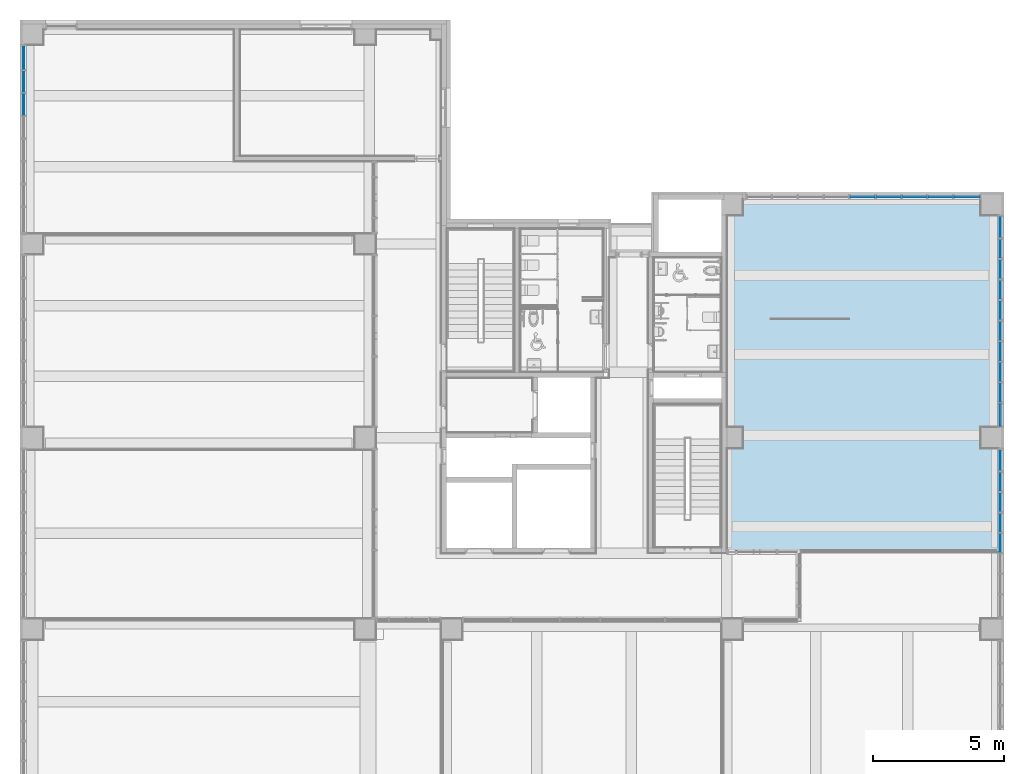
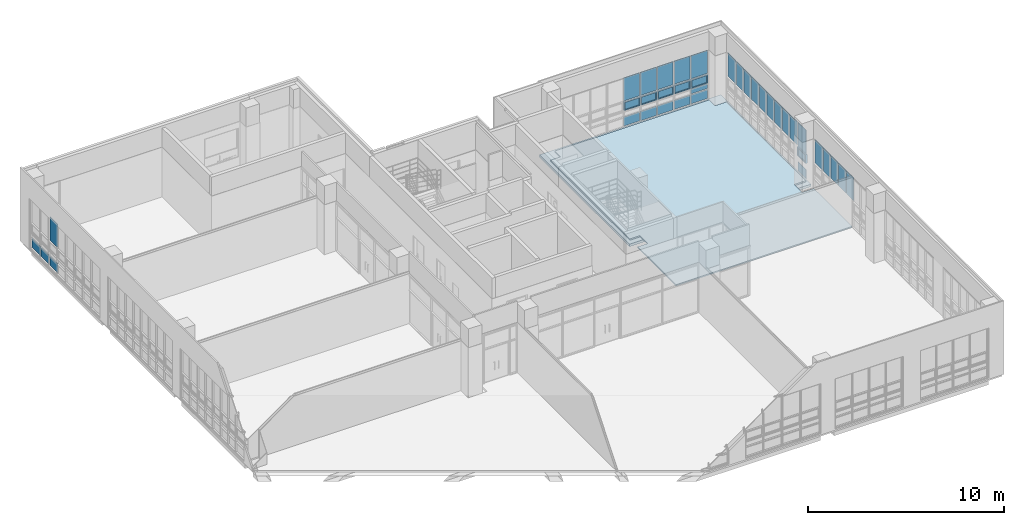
# One storey, part 37 of 74: 37 plates, 2 slabs, 4 elements without a shape of their own.
"""IFC2X3 building model written with IfcOpenShell, lengths in millimetres."""

from ifc_helpers import new_model, entity, si_unit, converted_unit, derived_unit, direction, frame, frame_2d, origin, origin_2d_with_axis, place, context, subcontext, project, spatial, polyline, rectangle, outline, extrude, source, transform, mapped, material, material_list, layer, layer_set, layer_usage, type_object, type_shapes, element, aggregate, save


model = new_model("IFC2X3")

# Units and contexts
model_context = context("Model", 3, precision=0.01, world=origin(), true_north=direction((6.123031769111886e-17, 1.0)))
body_context = subcontext(model_context, "Body", "Model", "MODEL_VIEW")
ifc_project = project(units=[si_unit("LENGTHUNIT", "METRE", prefix="MILLI"), si_unit("AREAUNIT", "SQUARE_METRE"), si_unit("VOLUMEUNIT", "CUBIC_METRE"), converted_unit("PLANEANGLEUNIT", "DEGREE", entity("IfcRatioMeasure", 0.017453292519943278), si_unit("PLANEANGLEUNIT", "RADIAN"), dimensions=[0, 0, 0, 0, 0, 0, 0]), si_unit("MASSUNIT", "GRAM", prefix="KILO"), derived_unit("MASSDENSITYUNIT", [(si_unit("MASSUNIT", "GRAM", prefix="KILO"), 1), (si_unit("LENGTHUNIT", "METRE"), -3)]), derived_unit("MOMENTOFINERTIAUNIT", [(si_unit("LENGTHUNIT", "METRE"), 4)]), si_unit("TIMEUNIT", "SECOND"), si_unit("FREQUENCYUNIT", "HERTZ"), si_unit("THERMODYNAMICTEMPERATUREUNIT", "DEGREE_CELSIUS"), derived_unit("THERMALTRANSMITTANCEUNIT", [(si_unit("MASSUNIT", "GRAM", prefix="KILO"), 1), (si_unit("THERMODYNAMICTEMPERATUREUNIT", "KELVIN"), -1), (si_unit("TIMEUNIT", "SECOND"), -3)]), derived_unit("VOLUMETRICFLOWRATEUNIT", [(si_unit("LENGTHUNIT", "METRE"), 3), (si_unit("TIMEUNIT", "SECOND"), -1)]), derived_unit("MASSFLOWRATEUNIT", [(si_unit("MASSUNIT", "GRAM", prefix="KILO"), 1), (si_unit("TIMEUNIT", "SECOND"), -1)]), derived_unit("ROTATIONALFREQUENCYUNIT", [(si_unit("TIMEUNIT", "SECOND"), -1)]), si_unit("ELECTRICCURRENTUNIT", "AMPERE"), si_unit("ELECTRICVOLTAGEUNIT", "VOLT"), si_unit("POWERUNIT", "WATT"), si_unit("FORCEUNIT", "NEWTON", prefix="KILO"), si_unit("ILLUMINANCEUNIT", "LUX"), si_unit("LUMINOUSFLUXUNIT", "LUMEN"), si_unit("LUMINOUSINTENSITYUNIT", "CANDELA"), derived_unit("USERDEFINED", [(si_unit("MASSUNIT", "GRAM", prefix="KILO"), -1), (si_unit("LENGTHUNIT", "METRE"), -2), (si_unit("TIMEUNIT", "SECOND"), 3), (si_unit("LUMINOUSFLUXUNIT", "LUMEN"), 1)]), derived_unit("SOUNDPOWERUNIT", [(si_unit("MASSUNIT", "GRAM", prefix="KILO"), 1), (si_unit("LENGTHUNIT", "METRE"), 2), (si_unit("TIMEUNIT", "SECOND"), -3)]), derived_unit("SOUNDPRESSUREUNIT", [(si_unit("MASSUNIT", "GRAM", prefix="KILO"), 1), (si_unit("LENGTHUNIT", "METRE"), -1), (si_unit("TIMEUNIT", "SECOND"), -2)]), derived_unit("LINEARVELOCITYUNIT", [(si_unit("LENGTHUNIT", "METRE"), 1), (si_unit("TIMEUNIT", "SECOND"), -1)]), si_unit("PRESSUREUNIT", "PASCAL"), derived_unit("USERDEFINED", [(si_unit("LENGTHUNIT", "METRE"), -2), (si_unit("MASSUNIT", "GRAM", prefix="KILO"), 1), (si_unit("TIMEUNIT", "SECOND"), -2)]), derived_unit("LINEARFORCEUNIT", [(si_unit("MASSUNIT", "GRAM", prefix="KILO"), 1), (si_unit("LENGTHUNIT", "METRE"), 1), (si_unit("TIMEUNIT", "SECOND"), -2), (si_unit("LENGTHUNIT", "METRE"), -1)]), derived_unit("PLANARFORCEUNIT", [(si_unit("MASSUNIT", "GRAM", prefix="KILO"), 1), (si_unit("LENGTHUNIT", "METRE"), 1), (si_unit("TIMEUNIT", "SECOND"), -2), (si_unit("LENGTHUNIT", "METRE"), -2)])], contexts=[model_context])

# Site, building, storey
site_placement = place(None, frame((-14167.972527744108, -657.2125860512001, 0.0)))
site = spatial("IfcSite", under=ifc_project, at=site_placement, Name="Default", CompositionType="ELEMENT")
building_placement = place(site_placement, origin())
building = spatial("IfcBuilding", under=site, at=building_placement, Name="Sample Building", CompositionType="ELEMENT")
storey_placement = place(building_placement, frame((0.0, 0.0, 4800.0)))
storey = spatial("IfcBuildingStorey", under=building, at=storey_placement, Name="지상 2층", CompositionType="ELEMENT", Elevation=4800.000000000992)

# Slab
ifc_material_1 = material(Name="KBIMS-콘크리트")
ifc_layer_1 = layer(ifc_material_1, 150.0)
ifc_layer_set_1 = layer_set([ifc_layer_1], Name="바닥:SL111-철근콘크리트구조 바닥 150mm_S1")
ifc_layer_usage_1 = layer_usage(ifc_layer_set_1, "AXIS3", "POSITIVE", 0.0)
slab_type_1 = type_object("IfcSlabType", Name="바닥:SL111-철근콘크리트구조 바닥 150mm_S1", PredefinedType="FLOOR", material=ifc_layer_set_1)
slab_1_placement = place(storey_placement, origin())
element("IfcSlab", 1, at=slab_1_placement, inside=storey, type_object=slab_type_1, material=ifc_layer_usage_1, Name="바닥:SL111-철근콘크리트구조 바닥 150mm_S1", ObjectType="바닥:SL111-철근콘크리트구조 바닥 150mm_S1", PredefinedType="FLOOR", context=body_context, shape_type="SweptSolid", body=[
    extrude(rectangle(XDim=9200.000037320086, YDim=10699.999920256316, at=frame_2d((4.547473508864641e-12, -8.640199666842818e-12), x_axis=(1.0, 0.0))), frame((46117.95506529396, 24657.21227648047, 0.0), z_axis=(0.0, 0.0, -1.0), x_axis=(0.0, 1.0, 0.0)), (0.0, 0.0, 1.0), 150.0),
])

# Curtain wall, plates
curtain_wall_type = type_object("IfcCurtainWallType", Name="커튼월:CW112-스테인리스 스틸 커튼월", PredefinedType="NOTDEFINED")
curtain_wall_1_placement = place(storey_placement, frame((0.0, 0.0, -4800.0)))
curtain_wall_1 = element("IfcCurtainWall", 2, at=curtain_wall_1_placement, inside=storey, type_object=curtain_wall_type, Name="커튼월:CW112-스테인리스 스틸 커튼월", ObjectType="커튼월:CW112-스테인리스 스틸 커튼월")
ifc_material_2 = material(Name="KBIMS-로이유리(코팅)")
plate_type_1 = type_object("IfcPlateType", Name="CW300-THK24.Low-e coating glass:CW300-THK24.Low-e coating glass", PredefinedType="CURTAIN_PANEL", material=ifc_material_2)
shared_shape_1 = source(origin(), body_context, "Body", "SweptSolid", [
    extrude(rectangle(XDim=24.000000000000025, YDim=903.7499999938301, at=origin_2d_with_axis()), frame((0.0, 0.0, 0.0), z_axis=(0.0, 0.0, 1.0), x_axis=(0.0, 1.0, 0.0)), (0.0, 0.0, 1.0), 575.0000000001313),
])
type_shapes(plate_type_1, [shared_shape_1])
plate_1_placement = place(curtain_wall_1_placement, frame((14130.455105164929, 34465.33727524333, 4930.0), z_axis=(0.0, 0.0, 1.0), x_axis=(0.0, -1.0, 0.0)))
plate_1 = element("IfcPlate", 3, at=plate_1_placement, type_object=plate_type_1, material=ifc_material_2, Name="CW300-THK24.Low-e coating glass:CW300-THK24.Low-e coating glass", ObjectType="CW300-THK24.Low-e coating glass:CW300-THK24.Low-e coating glass", context=body_context, shape_type="MappedRepresentation", body=[
    mapped(shared_shape_1, transform((0.0, 0.0, 0.0), scale=1.0)),
])
plate_type_2 = type_object("IfcPlateType", Name="CW300-THK24.Low-e coating glass:CW300-THK24.Low-e coating glass", PredefinedType="CURTAIN_PANEL", material=ifc_material_2)
shared_shape_2 = source(origin(), body_context, "Body", "SweptSolid", [
    extrude(rectangle(XDim=24.000000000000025, YDim=818.7500000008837, at=origin_2d_with_axis()), frame((0.0, 0.0, 0.0), z_axis=(0.0, 0.0, 1.0), x_axis=(0.0, 1.0, 0.0)), (0.0, 0.0, 1.0), 575.0000000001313),
])
type_shapes(plate_type_2, [shared_shape_2])
plate_2_placement = place(curtain_wall_1_placement, frame((14130.455105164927, 33554.08727524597, 4930.0), z_axis=(0.0, 0.0, 1.0), x_axis=(0.0, -1.0, 0.0)))
plate_2 = element("IfcPlate", 4, at=plate_2_placement, type_object=plate_type_2, material=ifc_material_2, Name="CW300-THK24.Low-e coating glass:CW300-THK24.Low-e coating glass", ObjectType="CW300-THK24.Low-e coating glass:CW300-THK24.Low-e coating glass", context=body_context, shape_type="MappedRepresentation", body=[
    mapped(shared_shape_2, transform((0.0, 0.0, 0.0), scale=1.0)),
])
plate_3_placement = place(curtain_wall_1_placement, frame((14130.455105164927, 32685.33727524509, 4930.0), z_axis=(0.0, 0.0, 1.0), x_axis=(0.0, -1.0, 0.0)))
plate_3 = element("IfcPlate", 5, at=plate_3_placement, type_object=plate_type_2, material=ifc_material_2, Name="CW300-THK24.Low-e coating glass:CW300-THK24.Low-e coating glass", ObjectType="CW300-THK24.Low-e coating glass:CW300-THK24.Low-e coating glass", context=body_context, shape_type="MappedRepresentation", body=[
    mapped(shared_shape_2, transform((0.0, 0.0, 0.0), scale=1.0)),
])
plate_type_3 = type_object("IfcPlateType", Name="CW300-THK24.Low-e coating glass:CW300-THK24.Low-e coating glass", PredefinedType="CURTAIN_PANEL", material=ifc_material_2)
shared_shape_3 = source(origin(), body_context, "Body", "SweptSolid", [
    extrude(rectangle(XDim=24.000000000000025, YDim=818.7500000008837, at=origin_2d_with_axis()), frame((0.0, 0.0, 0.0), z_axis=(0.0, 0.0, 1.0), x_axis=(0.0, 1.0, 0.0)), (0.0, 0.0, 1.0), 1445.0000000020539),
])
type_shapes(plate_type_3, [shared_shape_3])
plate_4_placement = place(curtain_wall_1_placement, frame((14130.455105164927, 32685.33727524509, 6505.0), z_axis=(0.0, 0.0, 1.0), x_axis=(0.0, -1.0, 0.0)))
plate_4 = element("IfcPlate", 6, at=plate_4_placement, type_object=plate_type_3, material=ifc_material_2, Name="CW300-THK24.Low-e coating glass:CW300-THK24.Low-e coating glass", ObjectType="CW300-THK24.Low-e coating glass:CW300-THK24.Low-e coating glass", context=body_context, shape_type="MappedRepresentation", body=[
    mapped(shared_shape_3, transform((0.0, 0.0, 0.0), scale=1.0)),
])
aggregate(curtain_wall_1, [plate_1, plate_2, plate_3, plate_4])

curtain_wall_2_placement = place(storey_placement, frame((0.0, 0.0, -4800.0)))
curtain_wall_2 = element("IfcCurtainWall", 7, at=curtain_wall_2_placement, inside=storey, type_object=curtain_wall_type, Name="커튼월:CW112-스테인리스 스틸 커튼월", ObjectType="커튼월:CW112-스테인리스 스틸 커튼월")
plate_type_4 = type_object("IfcPlateType", Name="CW300-THK24.Low-e coating glass:CW300-THK24.Low-e coating glass", PredefinedType="CURTAIN_PANEL", material=ifc_material_2)
shared_shape_4 = source(origin(), body_context, "Body", "SweptSolid", [
    extrude(rectangle(XDim=806.2500327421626, YDim=24.000000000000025, at=origin_2d_with_axis()), frame((0.0, 0.0, 0.0), z_axis=(0.0, 0.0, 1.0), x_axis=(-1.0, 0.0, 0.0)), (0.0, 0.0, 1.0), 1445.0000000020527),
])
type_shapes(plate_type_4, [shared_shape_4])
plate_5_placement = place(curtain_wall_2_placement, frame((51405.463828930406, 19104.08729161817, 6505.0), z_axis=(0.0, 0.0, 1.0), x_axis=(0.0, 1.0, 0.0)))
plate_5 = element("IfcPlate", 8, at=plate_5_placement, type_object=plate_type_4, material=ifc_material_2, Name="CW300-THK24.Low-e coating glass:CW300-THK24.Low-e coating glass", ObjectType="CW300-THK24.Low-e coating glass:CW300-THK24.Low-e coating glass", context=body_context, shape_type="MappedRepresentation", body=[
    mapped(shared_shape_4, transform((0.0, 0.0, 0.0), scale=1.0)),
])
plate_type_5 = type_object("IfcPlateType", Name="CW300-THK24.Low-e coating glass:CW300-THK24.Low-e coating glass", PredefinedType="CURTAIN_PANEL", material=ifc_material_2)
shared_shape_5 = source(origin(), body_context, "Body", "SweptSolid", [
    extrude(rectangle(XDim=731.2499999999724, YDim=24.000000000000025, at=origin_2d_with_axis()), frame((0.0, 0.0, 0.0), z_axis=(0.0, 0.0, 1.0), x_axis=(-1.0, 0.0, 0.0)), (0.0, 0.0, 1.0), 1445.0000000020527),
])
type_shapes(plate_type_5, [shared_shape_5])
plate_6_placement = place(curtain_wall_2_placement, frame((51405.4638289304, 15941.587275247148, 6505.0), z_axis=(0.0, 0.0, 1.0), x_axis=(0.0, 1.0, 0.0)))
plate_6 = element("IfcPlate", 9, at=plate_6_placement, type_object=plate_type_5, material=ifc_material_2, Name="CW300-THK24.Low-e coating glass:CW300-THK24.Low-e coating glass", ObjectType="CW300-THK24.Low-e coating glass:CW300-THK24.Low-e coating glass", context=body_context, shape_type="MappedRepresentation", body=[
    mapped(shared_shape_5, transform((0.0, 0.0, 0.0), scale=1.0)),
])
plate_7_placement = place(curtain_wall_2_placement, frame((51405.4638289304, 16722.837275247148, 6505.0), z_axis=(0.0, 0.0, 1.0), x_axis=(0.0, 1.0, 0.0)))
plate_7 = element("IfcPlate", 10, at=plate_7_placement, type_object=plate_type_5, material=ifc_material_2, Name="CW300-THK24.Low-e coating glass:CW300-THK24.Low-e coating glass", ObjectType="CW300-THK24.Low-e coating glass:CW300-THK24.Low-e coating glass", context=body_context, shape_type="MappedRepresentation", body=[
    mapped(shared_shape_5, transform((0.0, 0.0, 0.0), scale=1.0)),
])
plate_8_placement = place(curtain_wall_2_placement, frame((51405.4638289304, 17504.087275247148, 6505.0), z_axis=(0.0, 0.0, 1.0), x_axis=(0.0, 1.0, 0.0)))
plate_8 = element("IfcPlate", 11, at=plate_8_placement, type_object=plate_type_5, material=ifc_material_2, Name="CW300-THK24.Low-e coating glass:CW300-THK24.Low-e coating glass", ObjectType="CW300-THK24.Low-e coating glass:CW300-THK24.Low-e coating glass", context=body_context, shape_type="MappedRepresentation", body=[
    mapped(shared_shape_5, transform((0.0, 0.0, 0.0), scale=1.0)),
])
plate_9_placement = place(curtain_wall_2_placement, frame((51405.463828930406, 18285.337275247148, 6505.0), z_axis=(0.0, 0.0, 1.0), x_axis=(0.0, 1.0, 0.0)))
plate_9 = element("IfcPlate", 12, at=plate_9_placement, type_object=plate_type_5, material=ifc_material_2, Name="CW300-THK24.Low-e coating glass:CW300-THK24.Low-e coating glass", ObjectType="CW300-THK24.Low-e coating glass:CW300-THK24.Low-e coating glass", context=body_context, shape_type="MappedRepresentation", body=[
    mapped(shared_shape_5, transform((0.0, 0.0, 0.0), scale=1.0)),
])
aggregate(curtain_wall_2, [plate_6, plate_7, plate_8, plate_9, plate_5])

curtain_wall_3_placement = place(storey_placement, frame((0.0, 0.0, -4800.0)))
curtain_wall_3 = element("IfcCurtainWall", 13, at=curtain_wall_3_placement, inside=storey, type_object=curtain_wall_type, Name="커튼월:CW112-스테인리스 스틸 커튼월", ObjectType="커튼월:CW112-스테인리스 스틸 커튼월")
plate_type_6 = type_object("IfcPlateType", Name="CW300-THK24.Low-e coating glass:CW300-THK24.Low-e coating glass", PredefinedType="CURTAIN_PANEL", material=ifc_material_2)
shared_shape_6 = source(origin(), body_context, "Body", "SweptSolid", [
    extrude(rectangle(XDim=859.9999672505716, YDim=24.000000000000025, at=origin_2d_with_axis()), frame((0.0, 0.0, 0.0), z_axis=(0.0, 0.0, 1.0), x_axis=(-1.0, 0.0, 0.0)), (0.0, 0.0, 1.0), 575.0000000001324),
])
type_shapes(plate_type_6, [shared_shape_6])
plate_10_placement = place(curtain_wall_3_placement, frame((51405.463828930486, 20837.212291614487, 4930.0), z_axis=(0.0, 0.0, 1.0), x_axis=(0.0, 1.0, 0.0)))
plate_10 = element("IfcPlate", 14, at=plate_10_placement, type_object=plate_type_6, material=ifc_material_2, Name="CW300-THK24.Low-e coating glass:CW300-THK24.Low-e coating glass", ObjectType="CW300-THK24.Low-e coating glass:CW300-THK24.Low-e coating glass", context=body_context, shape_type="MappedRepresentation", body=[
    mapped(shared_shape_6, transform((0.0, 0.0, 0.0), scale=1.0)),
])
ifc_material_3 = material(Name="KBIMS-유리")
ifc_material_4 = material(Name="KBIMS-알루미늄")
ifc_material_list_1 = material_list([ifc_material_3, ifc_material_4])
ifc_material_list_2 = material_list([ifc_material_3, ifc_material_4])
plate_type_7 = type_object("IfcPlateType", Name="CW410-프로젝트 창:CW410-프로젝트 창 (하부개폐)", PredefinedType="CURTAIN_PANEL", material=ifc_material_list_2)
shared_shape_7 = source(origin(), body_context, "Body", "SweptSolid", [
    extrude(rectangle(XDim=759.9999672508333, YDim=23.999999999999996, at=origin_2d_with_axis()), frame((0.0, -0.04999999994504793, 50.0), z_axis=(0.0, 0.0, 1.0), x_axis=(-1.0, 0.0, 0.0)), (0.0, 0.0, 1.0), 450.00000000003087),
    extrude(outline(polyline([(-429.999983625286, -275.0), (429.999983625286, -275.0), (429.999983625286, 275.0), (-429.999983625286, 275.0), (-429.999983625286, -275.0)]), holes=[polyline([(-379.99998362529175, -225.0), (-379.9999836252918, 225.0), (379.99998362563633, 225.0), (379.99998362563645, -225.0), (-379.99998362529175, -225.0)])]), frame((0.0, -50.04999999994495, 275.0), z_axis=(0.0, 1.0, 0.0), x_axis=(1.0, 0.0, 0.0)), (0.0, 0.0, 1.0), 99.99999999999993),
])
type_shapes(plate_type_7, [shared_shape_7])
plate_11_placement = place(curtain_wall_3_placement, frame((51405.463828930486, 20837.212291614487, 5905.0), z_axis=(0.0, 0.0, 1.0), x_axis=(0.0, 1.0, 0.0)))
plate_11 = element("IfcPlate", 15, at=plate_11_placement, type_object=plate_type_7, material=ifc_material_list_1, Name="CW410-프로젝트 창:CW410-프로젝트 창 (하부개폐)", ObjectType="CW410-프로젝트 창:CW410-프로젝트 창 (하부개폐)", context=body_context, shape_type="MappedRepresentation", body=[
    mapped(shared_shape_7, transform((0.0, 0.0, 0.0), scale=1.0)),
])
plate_type_8 = type_object("IfcPlateType", Name="CW300-THK24.Low-e coating glass:CW300-THK24.Low-e coating glass", PredefinedType="CURTAIN_PANEL", material=ifc_material_2)
shared_shape_8 = source(origin(), body_context, "Body", "SweptSolid", [
    extrude(rectangle(XDim=859.9999672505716, YDim=24.000000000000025, at=origin_2d_with_axis()), frame((0.0, 0.0, 0.0), z_axis=(0.0, 0.0, 1.0), x_axis=(-1.0, 0.0, 0.0)), (0.0, 0.0, 1.0), 1445.0000000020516),
])
type_shapes(plate_type_8, [shared_shape_8])
plate_12_placement = place(curtain_wall_3_placement, frame((51405.463828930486, 20837.212291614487, 6505.0), z_axis=(0.0, 0.0, 1.0), x_axis=(0.0, 1.0, 0.0)))
plate_12 = element("IfcPlate", 16, at=plate_12_placement, type_object=plate_type_8, material=ifc_material_2, Name="CW300-THK24.Low-e coating glass:CW300-THK24.Low-e coating glass", ObjectType="CW300-THK24.Low-e coating glass:CW300-THK24.Low-e coating glass", context=body_context, shape_type="MappedRepresentation", body=[
    mapped(shared_shape_8, transform((0.0, 0.0, 0.0), scale=1.0)),
])
plate_type_9 = type_object("IfcPlateType", Name="CW300-THK24.Low-e coating glass:CW300-THK24.Low-e coating glass", PredefinedType="CURTAIN_PANEL", material=ifc_material_2)
shared_shape_9 = source(origin(), body_context, "Body", "SweptSolid", [
    extrude(rectangle(XDim=735.0000000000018, YDim=24.000000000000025, at=origin_2d_with_axis()), frame((0.0, 0.0, 0.0), z_axis=(0.0, 0.0, 1.0), x_axis=(-1.0, 0.0, 0.0)), (0.0, 0.0, 1.0), 1445.0000000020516),
])
type_shapes(plate_type_9, [shared_shape_9])
plate_13_placement = place(curtain_wall_3_placement, frame((51405.463828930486, 21684.712275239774, 6505.0), z_axis=(0.0, 0.0, 1.0), x_axis=(0.0, 1.0, 0.0)))
plate_13 = element("IfcPlate", 17, at=plate_13_placement, type_object=plate_type_9, material=ifc_material_2, Name="CW300-THK24.Low-e coating glass:CW300-THK24.Low-e coating glass", ObjectType="CW300-THK24.Low-e coating glass:CW300-THK24.Low-e coating glass", context=body_context, shape_type="MappedRepresentation", body=[
    mapped(shared_shape_9, transform((0.0, 0.0, 0.0), scale=1.0)),
])
plate_14_placement = place(curtain_wall_3_placement, frame((51405.463828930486, 22469.712275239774, 6505.0), z_axis=(0.0, 0.0, 1.0), x_axis=(0.0, 1.0, 0.0)))
plate_14 = element("IfcPlate", 18, at=plate_14_placement, type_object=plate_type_9, material=ifc_material_2, Name="CW300-THK24.Low-e coating glass:CW300-THK24.Low-e coating glass", ObjectType="CW300-THK24.Low-e coating glass:CW300-THK24.Low-e coating glass", context=body_context, shape_type="MappedRepresentation", body=[
    mapped(shared_shape_9, transform((0.0, 0.0, 0.0), scale=1.0)),
])
plate_15_placement = place(curtain_wall_3_placement, frame((51405.463828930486, 23254.712275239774, 6505.0), z_axis=(0.0, 0.0, 1.0), x_axis=(0.0, 1.0, 0.0)))
plate_15 = element("IfcPlate", 19, at=plate_15_placement, type_object=plate_type_9, material=ifc_material_2, Name="CW300-THK24.Low-e coating glass:CW300-THK24.Low-e coating glass", ObjectType="CW300-THK24.Low-e coating glass:CW300-THK24.Low-e coating glass", context=body_context, shape_type="MappedRepresentation", body=[
    mapped(shared_shape_9, transform((0.0, 0.0, 0.0), scale=1.0)),
])
plate_16_placement = place(curtain_wall_3_placement, frame((51405.463828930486, 24039.712275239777, 6505.0), z_axis=(0.0, 0.0, 1.0), x_axis=(0.0, 1.0, 0.0)))
plate_16 = element("IfcPlate", 20, at=plate_16_placement, type_object=plate_type_9, material=ifc_material_2, Name="CW300-THK24.Low-e coating glass:CW300-THK24.Low-e coating glass", ObjectType="CW300-THK24.Low-e coating glass:CW300-THK24.Low-e coating glass", context=body_context, shape_type="MappedRepresentation", body=[
    mapped(shared_shape_9, transform((0.0, 0.0, 0.0), scale=1.0)),
])
plate_17_placement = place(curtain_wall_3_placement, frame((51405.46382893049, 24824.71227523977, 6505.0), z_axis=(0.0, 0.0, 1.0), x_axis=(0.0, 1.0, 0.0)))
plate_17 = element("IfcPlate", 21, at=plate_17_placement, type_object=plate_type_9, material=ifc_material_2, Name="CW300-THK24.Low-e coating glass:CW300-THK24.Low-e coating glass", ObjectType="CW300-THK24.Low-e coating glass:CW300-THK24.Low-e coating glass", context=body_context, shape_type="MappedRepresentation", body=[
    mapped(shared_shape_9, transform((0.0, 0.0, 0.0), scale=1.0)),
])
plate_18_placement = place(curtain_wall_3_placement, frame((51405.46382893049, 25609.712275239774, 6505.0), z_axis=(0.0, 0.0, 1.0), x_axis=(0.0, 1.0, 0.0)))
plate_18 = element("IfcPlate", 22, at=plate_18_placement, type_object=plate_type_9, material=ifc_material_2, Name="CW300-THK24.Low-e coating glass:CW300-THK24.Low-e coating glass", ObjectType="CW300-THK24.Low-e coating glass:CW300-THK24.Low-e coating glass", context=body_context, shape_type="MappedRepresentation", body=[
    mapped(shared_shape_9, transform((0.0, 0.0, 0.0), scale=1.0)),
])
plate_19_placement = place(curtain_wall_3_placement, frame((51405.46382893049, 26394.71227523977, 6505.0), z_axis=(0.0, 0.0, 1.0), x_axis=(0.0, 1.0, 0.0)))
plate_19 = element("IfcPlate", 23, at=plate_19_placement, type_object=plate_type_9, material=ifc_material_2, Name="CW300-THK24.Low-e coating glass:CW300-THK24.Low-e coating glass", ObjectType="CW300-THK24.Low-e coating glass:CW300-THK24.Low-e coating glass", context=body_context, shape_type="MappedRepresentation", body=[
    mapped(shared_shape_9, transform((0.0, 0.0, 0.0), scale=1.0)),
])
plate_20_placement = place(curtain_wall_3_placement, frame((51405.46382893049, 27179.712275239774, 6505.0), z_axis=(0.0, 0.0, 1.0), x_axis=(0.0, 1.0, 0.0)))
plate_20 = element("IfcPlate", 24, at=plate_20_placement, type_object=plate_type_9, material=ifc_material_2, Name="CW300-THK24.Low-e coating glass:CW300-THK24.Low-e coating glass", ObjectType="CW300-THK24.Low-e coating glass:CW300-THK24.Low-e coating glass", context=body_context, shape_type="MappedRepresentation", body=[
    mapped(shared_shape_9, transform((0.0, 0.0, 0.0), scale=1.0)),
])
plate_type_10 = type_object("IfcPlateType", Name="CW300-THK24.Low-e coating glass:CW300-THK24.Low-e coating glass", PredefinedType="CURTAIN_PANEL", material=ifc_material_2)
shared_shape_10 = source(origin(), body_context, "Body", "SweptSolid", [
    extrude(rectangle(XDim=810.0004297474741, YDim=24.000000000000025, at=origin_2d_with_axis()), frame((0.0, 0.0, 0.0), z_axis=(0.0, 0.0, 1.0), x_axis=(-1.0, 0.0, 0.0)), (0.0, 0.0, 1.0), 1445.0000000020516),
])
type_shapes(plate_type_10, [shared_shape_10])
plate_21_placement = place(curtain_wall_3_placement, frame((51405.46382893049, 28002.212490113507, 6505.0), z_axis=(0.0, 0.0, 1.0), x_axis=(0.0, 1.0, 0.0)))
plate_21 = element("IfcPlate", 25, at=plate_21_placement, type_object=plate_type_10, material=ifc_material_2, Name="CW300-THK24.Low-e coating glass:CW300-THK24.Low-e coating glass", ObjectType="CW300-THK24.Low-e coating glass:CW300-THK24.Low-e coating glass", context=body_context, shape_type="MappedRepresentation", body=[
    mapped(shared_shape_10, transform((0.0, 0.0, 0.0), scale=1.0)),
])
aggregate(curtain_wall_3, [plate_10, plate_11, plate_12, plate_13, plate_14, plate_15, plate_16, plate_17, plate_18, plate_19, plate_20, plate_21])

curtain_wall_4_placement = place(storey_placement, frame((0.0, 0.0, -4800.0)))
curtain_wall_4 = element("IfcCurtainWall", 26, at=curtain_wall_4_placement, inside=storey, type_object=curtain_wall_type, Name="커튼월:CW112-스테인리스 스틸 커튼월", ObjectType="커튼월:CW112-스테인리스 스틸 커튼월")
plate_type_11 = type_object("IfcPlateType", Name="CW300-THK24.Low-e coating glass:CW300-THK24.Low-e coating glass", PredefinedType="CURTAIN_PANEL", material=ifc_material_2)
shared_shape_11 = source(origin(), body_context, "Body", "SweptSolid", [
    extrude(rectangle(XDim=984.3234452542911, YDim=24.000000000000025, at=origin_2d_with_axis()), frame((0.0, 0.0, 0.0), z_axis=(0.0, 0.0, 1.0), x_axis=(-1.0, 0.0, 0.0)), (0.0, 0.0, 1.0), 575.0000000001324),
])
type_shapes(plate_type_11, [shared_shape_11])
plate_22_placement = place(curtain_wall_4_placement, frame((50125.819492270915, 29157.212295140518, 4930.0), z_axis=(0.0, 0.0, 1.0), x_axis=(-1.0, 0.0, 0.0)))
plate_22 = element("IfcPlate", 27, at=plate_22_placement, type_object=plate_type_11, material=ifc_material_2, Name="CW300-THK24.Low-e coating glass:CW300-THK24.Low-e coating glass", ObjectType="CW300-THK24.Low-e coating glass:CW300-THK24.Low-e coating glass", context=body_context, shape_type="MappedRepresentation", body=[
    mapped(shared_shape_11, transform((0.0, 0.0, 0.0), scale=1.0)),
])
plate_type_12 = type_object("IfcPlateType", Name="CW300-THK24.Low-e coating glass:CW300-THK24.Low-e coating glass", PredefinedType="CURTAIN_PANEL", material=ifc_material_2)
shared_shape_12 = source(origin(), body_context, "Body", "SweptSolid", [
    extrude(rectangle(XDim=938.8888888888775, YDim=24.000000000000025, at=origin_2d_with_axis()), frame((0.0, 0.0, 0.0), z_axis=(0.0, 0.0, 1.0), x_axis=(-1.0, 0.0, 0.0)), (0.0, 0.0, 1.0), 575.0000000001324),
])
type_shapes(plate_type_12, [shared_shape_12])
plate_23_placement = place(curtain_wall_4_placement, frame((49114.21332519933, 29157.212295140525, 4930.0), z_axis=(0.0, 0.0, 1.0), x_axis=(-1.0, 0.0, 0.0)))
plate_23 = element("IfcPlate", 28, at=plate_23_placement, type_object=plate_type_12, material=ifc_material_2, Name="CW300-THK24.Low-e coating glass:CW300-THK24.Low-e coating glass", ObjectType="CW300-THK24.Low-e coating glass:CW300-THK24.Low-e coating glass", context=body_context, shape_type="MappedRepresentation", body=[
    mapped(shared_shape_12, transform((0.0, 0.0, 0.0), scale=1.0)),
])
plate_24_placement = place(curtain_wall_4_placement, frame((48125.324436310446, 29157.21229514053, 4930.0), z_axis=(0.0, 0.0, 1.0), x_axis=(-1.0, 0.0, 0.0)))
plate_24 = element("IfcPlate", 29, at=plate_24_placement, type_object=plate_type_12, material=ifc_material_2, Name="CW300-THK24.Low-e coating glass:CW300-THK24.Low-e coating glass", ObjectType="CW300-THK24.Low-e coating glass:CW300-THK24.Low-e coating glass", context=body_context, shape_type="MappedRepresentation", body=[
    mapped(shared_shape_12, transform((0.0, 0.0, 0.0), scale=1.0)),
])
plate_25_placement = place(curtain_wall_4_placement, frame((47136.43554742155, 29157.21229514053, 4930.0), z_axis=(0.0, 0.0, 1.0), x_axis=(-1.0, 0.0, 0.0)))
plate_25 = element("IfcPlate", 30, at=plate_25_placement, type_object=plate_type_12, material=ifc_material_2, Name="CW300-THK24.Low-e coating glass:CW300-THK24.Low-e coating glass", ObjectType="CW300-THK24.Low-e coating glass:CW300-THK24.Low-e coating glass", context=body_context, shape_type="MappedRepresentation", body=[
    mapped(shared_shape_12, transform((0.0, 0.0, 0.0), scale=1.0)),
])
plate_26_placement = place(curtain_wall_4_placement, frame((46147.54665853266, 29157.212295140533, 4930.0), z_axis=(0.0, 0.0, 1.0), x_axis=(-1.0, 0.0, 0.0)))
plate_26 = element("IfcPlate", 31, at=plate_26_placement, type_object=plate_type_12, material=ifc_material_2, Name="CW300-THK24.Low-e coating glass:CW300-THK24.Low-e coating glass", ObjectType="CW300-THK24.Low-e coating glass:CW300-THK24.Low-e coating glass", context=body_context, shape_type="MappedRepresentation", body=[
    mapped(shared_shape_12, transform((0.0, 0.0, 0.0), scale=1.0)),
])
plate_type_13 = type_object("IfcPlateType", Name="CW300-THK24.Low-e coating glass:CW300-THK24.Low-e coating glass", PredefinedType="CURTAIN_PANEL", material=ifc_material_2)
shared_shape_13 = source(origin(), body_context, "Body", "SweptSolid", [
    extrude(rectangle(XDim=984.3234452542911, YDim=24.000000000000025, at=origin_2d_with_axis()), frame((0.0, 0.0, 0.0), z_axis=(0.0, 0.0, 1.0), x_axis=(-1.0, 0.0, 0.0)), (0.0, 0.0, 1.0), 300.0),
])
type_shapes(plate_type_13, [shared_shape_13])
plate_27_placement = place(curtain_wall_4_placement, frame((50125.819492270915, 29157.212295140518, 5555.0), z_axis=(0.0, 0.0, 1.0), x_axis=(-1.0, 0.0, 0.0)))
plate_27 = element("IfcPlate", 32, at=plate_27_placement, type_object=plate_type_13, material=ifc_material_2, Name="CW300-THK24.Low-e coating glass:CW300-THK24.Low-e coating glass", ObjectType="CW300-THK24.Low-e coating glass:CW300-THK24.Low-e coating glass", context=body_context, shape_type="MappedRepresentation", body=[
    mapped(shared_shape_13, transform((0.0, 0.0, 0.0), scale=1.0)),
])
ifc_material_list_3 = material_list([ifc_material_3, ifc_material_4])
ifc_material_list_4 = material_list([ifc_material_3, ifc_material_4])
plate_type_14 = type_object("IfcPlateType", Name="CW410-프로젝트 창:CW410-프로젝트 창 (하부개폐)", PredefinedType="CURTAIN_PANEL", material=ifc_material_list_4)
shared_shape_14 = source(origin(), body_context, "Body", "SweptSolid", [
    extrude(rectangle(XDim=884.3234452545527, YDim=23.999999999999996, at=origin_2d_with_axis()), frame((0.0, -0.04999999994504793, 50.0), z_axis=(0.0, 0.0, 1.0), x_axis=(-1.0, 0.0, 0.0)), (0.0, 0.0, 1.0), 450.00000000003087),
    extrude(outline(polyline([(-492.1617226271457, -275.0), (492.1617226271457, -275.0), (492.1617226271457, 275.0), (-492.1617226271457, 275.0), (-492.1617226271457, -275.0)]), holes=[polyline([(-442.16172262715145, -225.0), (-442.1617226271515, 225.0), (442.16172262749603, 225.0), (442.16172262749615, -225.0), (-442.16172262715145, -225.0)])]), frame((0.0, -50.04999999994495, 275.0), z_axis=(0.0, 1.0, 0.0), x_axis=(1.0, 0.0, 0.0)), (0.0, 0.0, 1.0), 99.99999999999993),
])
type_shapes(plate_type_14, [shared_shape_14])
plate_28_placement = place(curtain_wall_4_placement, frame((50125.819492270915, 29157.212295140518, 5905.0), z_axis=(0.0, 0.0, 1.0), x_axis=(-1.0, 0.0, 0.0)))
plate_28 = element("IfcPlate", 33, at=plate_28_placement, type_object=plate_type_14, material=ifc_material_list_3, Name="CW410-프로젝트 창:CW410-프로젝트 창 (하부개폐)", ObjectType="CW410-프로젝트 창:CW410-프로젝트 창 (하부개폐)", context=body_context, shape_type="MappedRepresentation", body=[
    mapped(shared_shape_14, transform((0.0, 0.0, 0.0), scale=1.0)),
])
ifc_material_list_5 = material_list([ifc_material_3, ifc_material_4])
ifc_material_list_6 = material_list([ifc_material_3, ifc_material_4])
plate_type_15 = type_object("IfcPlateType", Name="CW410-프로젝트 창:CW410-프로젝트 창 (하부개폐)", PredefinedType="CURTAIN_PANEL", material=ifc_material_list_6)
shared_shape_15 = source(origin(), body_context, "Body", "SweptSolid", [
    extrude(rectangle(XDim=838.8888888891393, YDim=23.999999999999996, at=origin_2d_with_axis()), frame((0.0, -0.04999999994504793, 50.0), z_axis=(0.0, 0.0, 1.0), x_axis=(-1.0, 0.0, 0.0)), (0.0, 0.0, 1.0), 450.00000000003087),
    extrude(outline(polyline([(-469.444444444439, -275.0), (469.444444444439, -275.0), (469.444444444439, 275.0), (-469.444444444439, 275.0), (-469.444444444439, -275.0)]), holes=[polyline([(-419.44444444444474, -225.0), (-419.4444444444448, 225.0), (419.44444444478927, 225.0), (419.44444444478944, -225.0), (-419.44444444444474, -225.0)])]), frame((0.0, -50.04999999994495, 275.0), z_axis=(0.0, 1.0, 0.0), x_axis=(1.0, 0.0, 0.0)), (0.0, 0.0, 1.0), 99.99999999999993),
])
type_shapes(plate_type_15, [shared_shape_15])
plate_29_placement = place(curtain_wall_4_placement, frame((49114.21332519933, 29157.212295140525, 5905.0), z_axis=(0.0, 0.0, 1.0), x_axis=(-1.0, 0.0, 0.0)))
plate_29 = element("IfcPlate", 34, at=plate_29_placement, type_object=plate_type_15, material=ifc_material_list_5, Name="CW410-프로젝트 창:CW410-프로젝트 창 (하부개폐)", ObjectType="CW410-프로젝트 창:CW410-프로젝트 창 (하부개폐)", context=body_context, shape_type="MappedRepresentation", body=[
    mapped(shared_shape_15, transform((0.0, 0.0, 0.0), scale=1.0)),
])
ifc_material_list_7 = material_list([ifc_material_3, ifc_material_4])
plate_30_placement = place(curtain_wall_4_placement, frame((48125.324436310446, 29157.21229514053, 5905.0), z_axis=(0.0, 0.0, 1.0), x_axis=(-1.0, 0.0, 0.0)))
plate_30 = element("IfcPlate", 35, at=plate_30_placement, type_object=plate_type_15, material=ifc_material_list_7, Name="CW410-프로젝트 창:CW410-프로젝트 창 (하부개폐)", ObjectType="CW410-프로젝트 창:CW410-프로젝트 창 (하부개폐)", context=body_context, shape_type="MappedRepresentation", body=[
    mapped(shared_shape_15, transform((0.0, 0.0, 0.0), scale=1.0)),
])
ifc_material_list_8 = material_list([ifc_material_3, ifc_material_4])
plate_31_placement = place(curtain_wall_4_placement, frame((47136.43554742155, 29157.21229514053, 5905.0), z_axis=(0.0, 0.0, 1.0), x_axis=(-1.0, 0.0, 0.0)))
plate_31 = element("IfcPlate", 36, at=plate_31_placement, type_object=plate_type_15, material=ifc_material_list_8, Name="CW410-프로젝트 창:CW410-프로젝트 창 (하부개폐)", ObjectType="CW410-프로젝트 창:CW410-프로젝트 창 (하부개폐)", context=body_context, shape_type="MappedRepresentation", body=[
    mapped(shared_shape_15, transform((0.0, 0.0, 0.0), scale=1.0)),
])
ifc_material_list_9 = material_list([ifc_material_3, ifc_material_4])
plate_32_placement = place(curtain_wall_4_placement, frame((46147.54665853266, 29157.212295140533, 5905.0), z_axis=(0.0, 0.0, 1.0), x_axis=(-1.0, 0.0, 0.0)))
plate_32 = element("IfcPlate", 37, at=plate_32_placement, type_object=plate_type_15, material=ifc_material_list_9, Name="CW410-프로젝트 창:CW410-프로젝트 창 (하부개폐)", ObjectType="CW410-프로젝트 창:CW410-프로젝트 창 (하부개폐)", context=body_context, shape_type="MappedRepresentation", body=[
    mapped(shared_shape_15, transform((0.0, 0.0, 0.0), scale=1.0)),
])
plate_type_16 = type_object("IfcPlateType", Name="CW300-THK24.Low-e coating glass:CW300-THK24.Low-e coating glass", PredefinedType="CURTAIN_PANEL", material=ifc_material_2)
shared_shape_16 = source(origin(), body_context, "Body", "SweptSolid", [
    extrude(rectangle(XDim=984.3234452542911, YDim=24.000000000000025, at=origin_2d_with_axis()), frame((0.0, 0.0, 0.0), z_axis=(0.0, 0.0, 1.0), x_axis=(-1.0, 0.0, 0.0)), (0.0, 0.0, 1.0), 1445.0000000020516),
])
type_shapes(plate_type_16, [shared_shape_16])
plate_33_placement = place(curtain_wall_4_placement, frame((50125.819492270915, 29157.212295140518, 6505.0), z_axis=(0.0, 0.0, 1.0), x_axis=(-1.0, 0.0, 0.0)))
plate_33 = element("IfcPlate", 38, at=plate_33_placement, type_object=plate_type_16, material=ifc_material_2, Name="CW300-THK24.Low-e coating glass:CW300-THK24.Low-e coating glass", ObjectType="CW300-THK24.Low-e coating glass:CW300-THK24.Low-e coating glass", context=body_context, shape_type="MappedRepresentation", body=[
    mapped(shared_shape_16, transform((0.0, 0.0, 0.0), scale=1.0)),
])
plate_type_17 = type_object("IfcPlateType", Name="CW300-THK24.Low-e coating glass:CW300-THK24.Low-e coating glass", PredefinedType="CURTAIN_PANEL", material=ifc_material_2)
shared_shape_17 = source(origin(), body_context, "Body", "SweptSolid", [
    extrude(rectangle(XDim=938.8888888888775, YDim=24.000000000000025, at=origin_2d_with_axis()), frame((0.0, 0.0, 0.0), z_axis=(0.0, 0.0, 1.0), x_axis=(-1.0, 0.0, 0.0)), (0.0, 0.0, 1.0), 1445.0000000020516),
])
type_shapes(plate_type_17, [shared_shape_17])
plate_34_placement = place(curtain_wall_4_placement, frame((49114.21332519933, 29157.212295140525, 6505.0), z_axis=(0.0, 0.0, 1.0), x_axis=(-1.0, 0.0, 0.0)))
plate_34 = element("IfcPlate", 39, at=plate_34_placement, type_object=plate_type_17, material=ifc_material_2, Name="CW300-THK24.Low-e coating glass:CW300-THK24.Low-e coating glass", ObjectType="CW300-THK24.Low-e coating glass:CW300-THK24.Low-e coating glass", context=body_context, shape_type="MappedRepresentation", body=[
    mapped(shared_shape_17, transform((0.0, 0.0, 0.0), scale=1.0)),
])
plate_35_placement = place(curtain_wall_4_placement, frame((48125.324436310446, 29157.21229514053, 6505.0), z_axis=(0.0, 0.0, 1.0), x_axis=(-1.0, 0.0, 0.0)))
plate_35 = element("IfcPlate", 40, at=plate_35_placement, type_object=plate_type_17, material=ifc_material_2, Name="CW300-THK24.Low-e coating glass:CW300-THK24.Low-e coating glass", ObjectType="CW300-THK24.Low-e coating glass:CW300-THK24.Low-e coating glass", context=body_context, shape_type="MappedRepresentation", body=[
    mapped(shared_shape_17, transform((0.0, 0.0, 0.0), scale=1.0)),
])
plate_36_placement = place(curtain_wall_4_placement, frame((47136.43554742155, 29157.21229514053, 6505.0), z_axis=(0.0, 0.0, 1.0), x_axis=(-1.0, 0.0, 0.0)))
plate_36 = element("IfcPlate", 41, at=plate_36_placement, type_object=plate_type_17, material=ifc_material_2, Name="CW300-THK24.Low-e coating glass:CW300-THK24.Low-e coating glass", ObjectType="CW300-THK24.Low-e coating glass:CW300-THK24.Low-e coating glass", context=body_context, shape_type="MappedRepresentation", body=[
    mapped(shared_shape_17, transform((0.0, 0.0, 0.0), scale=1.0)),
])
plate_37_placement = place(curtain_wall_4_placement, frame((46147.54665853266, 29157.212295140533, 6505.0), z_axis=(0.0, 0.0, 1.0), x_axis=(-1.0, 0.0, 0.0)))
plate_37 = element("IfcPlate", 42, at=plate_37_placement, type_object=plate_type_17, material=ifc_material_2, Name="CW300-THK24.Low-e coating glass:CW300-THK24.Low-e coating glass", ObjectType="CW300-THK24.Low-e coating glass:CW300-THK24.Low-e coating glass", context=body_context, shape_type="MappedRepresentation", body=[
    mapped(shared_shape_17, transform((0.0, 0.0, 0.0), scale=1.0)),
])
aggregate(curtain_wall_4, [plate_22, plate_23, plate_24, plate_25, plate_26, plate_27, plate_28, plate_29, plate_30, plate_31, plate_32, plate_33, plate_34, plate_35, plate_36, plate_37])

# Slab
ifc_material_5 = material(Name="SL341-테라조 바닥 (바탕48mm, 마감32mm)")
ifc_layer_2 = layer(ifc_material_5, 80.0)
ifc_layer_set_2 = layer_set([ifc_layer_2], Name="바닥:A1-14-06B-테라조타일 (80mm)")
ifc_layer_usage_2 = layer_usage(ifc_layer_set_2, "AXIS3", "POSITIVE", 0.0)
slab_type_2 = type_object("IfcSlabType", Name="바닥:A1-14-06B-테라조타일 (80mm)", PredefinedType="FLOOR", material=ifc_layer_set_2)
slab_2_placement = place(storey_placement, origin())
element("IfcSlab", 43, at=slab_2_placement, inside=storey, type_object=slab_type_2, material=ifc_layer_usage_2, Name="바닥:A1-14-06B-테라조타일 (80mm)", ObjectType="바닥:A1-14-06B-테라조타일 (80mm)", PredefinedType="FLOOR", context=body_context, shape_type="SweptSolid", body=[
    extrude(outline(polyline([(-2324.3706806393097, -5170.319032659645), (5775.629319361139, -5170.319032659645), (5775.629319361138, -4570.310339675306), (6375.6293065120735, -4570.3103396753), (6375.629306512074, 4529.698384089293), (5775.6294073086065, 4529.698384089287), (5775.6294073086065, 5204.680998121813), (-2324.3706806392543, 5204.680998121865), (-2324.370680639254, 4529.69838408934), (-3124.370680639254, 4529.698384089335), (-3124.3706806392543, 5217.180998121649), (-7029.405310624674, 5217.180998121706), (-7029.405310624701, -5170.319032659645), (-3124.3706806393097, -5170.3190326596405), (-3124.3706806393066, -4570.310359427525), (-2324.3706806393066, -4570.31035942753), (-2324.3706806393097, -5170.319032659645)])), frame((46138.282830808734, 22681.582988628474, 80.0), z_axis=(0.0, 0.0, -1.0), x_axis=(0.0, 1.0, 0.0)), (0.0, 0.0, 1.0), 80.00000000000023),
])

save(model, "model.ifc")
